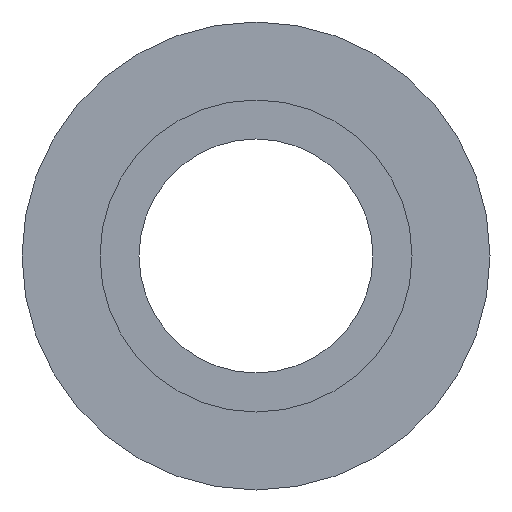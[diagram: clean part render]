
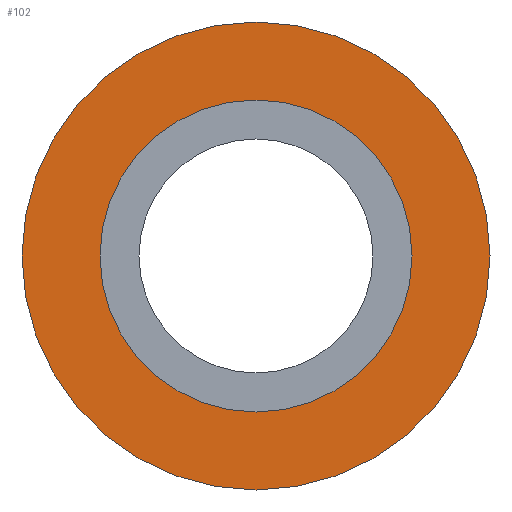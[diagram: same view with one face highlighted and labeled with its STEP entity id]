
A CAD part, left-side view. The second image highlights one B-rep face of the part: STEP entity #102.
In plain terms, the highlighted planar face has unit normal (-1, 0, 0).
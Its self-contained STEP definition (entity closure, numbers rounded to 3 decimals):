
#28=ORIENTED_EDGE('',*,*,#43,.F.);
#29=ORIENTED_EDGE('',*,*,#42,.T.);
#42=EDGE_CURVE('',#50,#50,#58,.T.);
#43=EDGE_CURVE('',#51,#51,#59,.T.);
#50=VERTEX_POINT('',#179);
#51=VERTEX_POINT('',#182);
#58=CIRCLE('',#125,4.);
#59=CIRCLE('',#127,6.);
#68=EDGE_LOOP('',(#28));
#69=EDGE_LOOP('',(#29));
#84=FACE_BOUND('',#68,.T.);
#85=FACE_BOUND('',#69,.T.);
#97=PLANE('',#126);
#102=ADVANCED_FACE('',(#84,#85),#97,.F.);
#125=AXIS2_PLACEMENT_3D('',#178,#147,#148);
#126=AXIS2_PLACEMENT_3D('',#180,#149,#150);
#127=AXIS2_PLACEMENT_3D('',#181,#151,#152);
#147=DIRECTION('',(1.,0.,0.));
#148=DIRECTION('',(0.,0.,-1.));
#149=DIRECTION('',(1.,0.,0.));
#150=DIRECTION('',(0.,0.,-1.));
#151=DIRECTION('',(1.,0.,0.));
#152=DIRECTION('',(0.,0.,-1.));
#178=CARTESIAN_POINT('',(3.,0.,0.));
#179=CARTESIAN_POINT('',(3.,0.,-4.));
#180=CARTESIAN_POINT('',(3.,4.,0.));
#181=CARTESIAN_POINT('',(3.,0.,0.));
#182=CARTESIAN_POINT('',(3.,0.,-6.));
